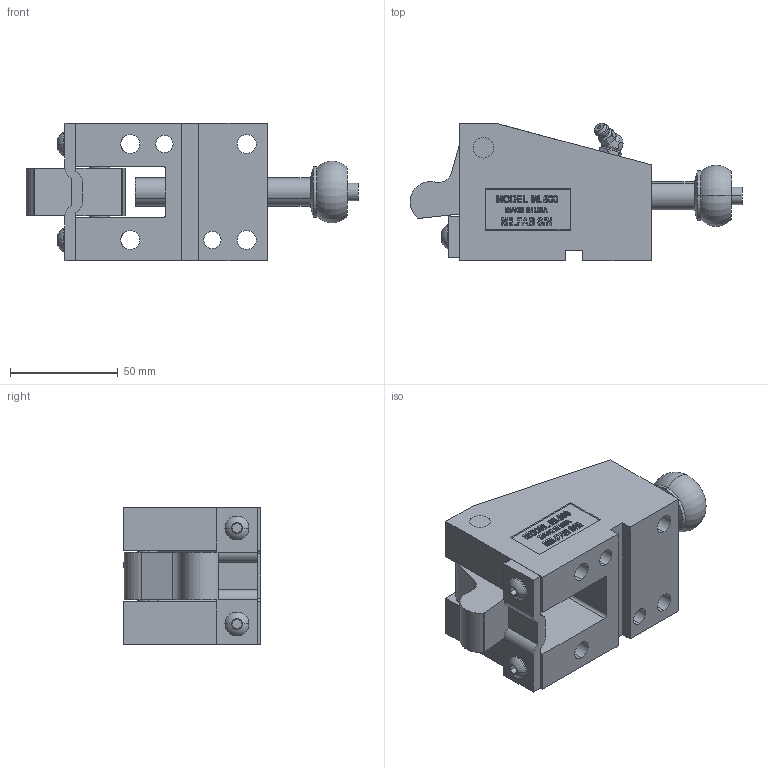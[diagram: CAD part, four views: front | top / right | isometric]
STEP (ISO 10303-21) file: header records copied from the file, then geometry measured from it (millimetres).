
FILE_DESCRIPTION (( 'STEP AP214' ), '1' );
FILE_NAME ('ML50045-C.STEP', '2014-01-07T20:15:37', ( 'user' ), ( '' ), 'SwSTEP 2.0', 'SolidWorks 2009', '' );
FILE_SCHEMA (( 'AUTOMOTIVE_DESIGN' ));
Length unit declared in the file: inch
Products named in the file (1): ML50045-C
Bounding box: 153.85 x 63.88 x 63.5 mm (x, y, z)
Surface area: 61730.5 mm2 (no closed solid volume)
Topology: 0 solids, 11 shells, 468 faces, 1431 edges, 959 vertices
Faces by surface type: plane 273, bspline 80, cylinder 77, torus 18, cone 16, sphere 4
Entity records: 27122 total; most frequent: CARTESIAN_POINT 8970, ORIENTED_EDGE 2533, DIRECTION 2141, EDGE_CURVE 1429, VERTEX_POINT 959, VECTOR 947, LINE 947, AXIS2_PLACEMENT_3D 597
